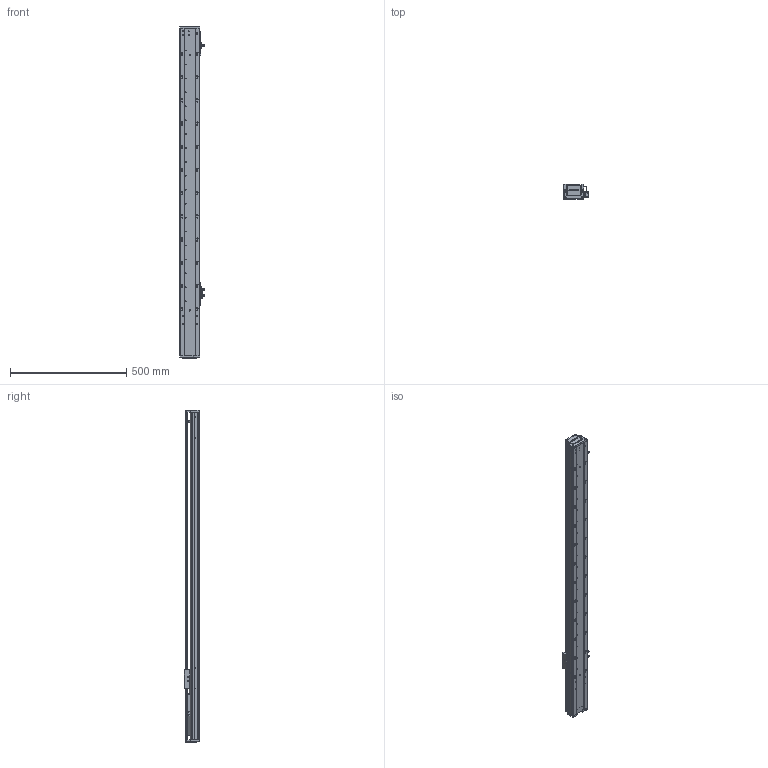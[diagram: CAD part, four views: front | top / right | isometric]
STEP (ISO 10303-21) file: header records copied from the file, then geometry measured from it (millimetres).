
FILE_DESCRIPTION (( 'STEP AP203' ), '1' );
FILE_NAME ('RY80-L1620-950-IK.SLDASM_1050.step', '2021-02-22T05:32:52', ( '盈信电脑' ), ( '东莞市道滘镇水果街19号' ), 'SwSTEP 2.0', 'SolidWorks 2012', '' );
FILE_SCHEMA (( 'CONFIG_CONTROL_DESIGN' ));
Products named in the file (14): RY80-L1620-950-IK.SLDASM_1050; 侂狟100W; 滅袉蝶18-24; RY80囀离ヶ啣; RY80囀离萇儂啣; 滅袉蝶18-10; 672嫖萇羲壽假蚾釱; RY80俋离覜茼え; 覜茼ん672; RY80-950倰第奻裔啣-IK_1050; RY80萇儂傷盓傅釱; RY80綴裔啣; RY80臏賑輸; RY80-950倰第菁釱-IK_1050
Assembly tree (16 placements, depth 2):
  RY80-L1620-950-IK.SLDASM_1050
    RY80-950倰第菁釱-IK_1050
    RY80臏賑輸
    RY80-950倰第奻裔啣-IK_1050
    RY80萇儂傷盓傅釱
    RY80綴裔啣
    滅袉蝶18-10
    672嫖萇羲壽假蚾釱  x2
    覜茼ん672  x3
    RY80俋离覜茼え
    侂狟100W
    RY80囀离萇儂啣
    RY80囀离ヶ啣
    滅袉蝶18-24
Bounding box: 103.7 x 65 x 1431 mm (x, y, z)
Volume: 2263764.9 mm3; surface area: 969146.2 mm2
Topology: 16 solids, 16 shells, 2287 faces, 6404 edges, 4179 vertices
Faces by surface type: plane 1314, cylinder 830, cone 99, bspline 44
Entity records: 74647 total; most frequent: CARTESIAN_POINT 20091, ORIENTED_EDGE 11528, DIRECTION 10213, EDGE_CURVE 5764, VERTEX_POINT 3795, VECTOR 3623, LINE 3623, AXIS2_PLACEMENT_3D 3295
